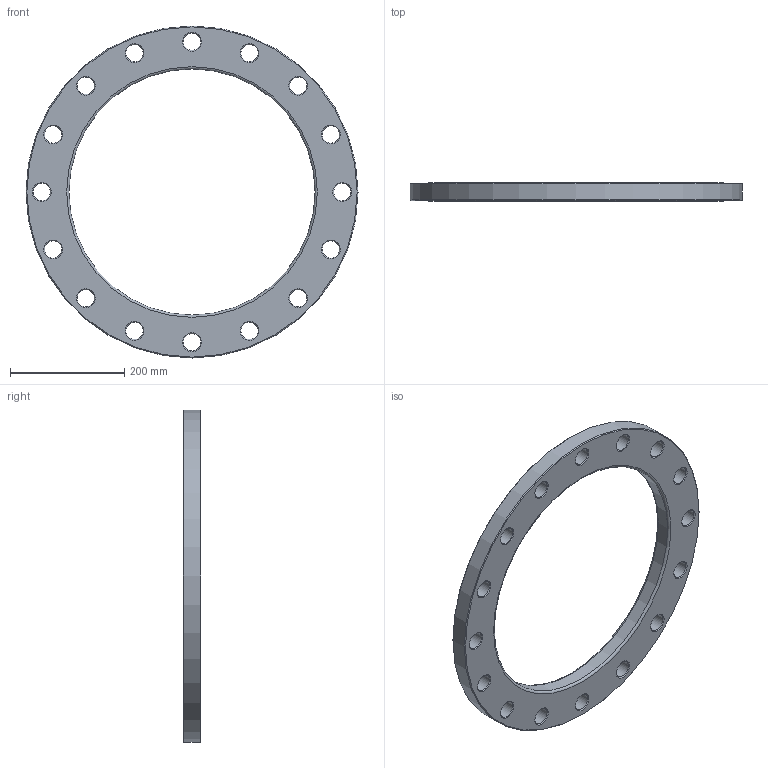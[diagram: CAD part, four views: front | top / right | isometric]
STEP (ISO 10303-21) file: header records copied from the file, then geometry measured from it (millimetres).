
FILE_DESCRIPTION(/* description */ ('Unknown'),/* implementation_level */ '2;1');
FILE_NAME(/* name */ 'FZ400C',/* time_stamp */ '2021-03-15T12:20:05+01:00',/* author */ ('Unknown'),/* organization */ ('Unknown'),/* preprocessor_version */ 'ST-DEVELOPER v16.7',/* originating_system */ 'Solid Edge',/* authorisation */ 'Unknown');
FILE_SCHEMA (('AUTOMOTIVE_DESIGN {1 0 10303 214 3 1 1}'));
Length unit declared in the file: millimetre
Products named in the file (1): FZ400C
Bounding box: 580 x 31 x 580 mm (x, y, z)
Volume: 3321106.6 mm3; surface area: 350077.8 mm2
Topology: 1 solids, 1 shells, 56 faces, 174 edges, 120 vertices
Faces by surface type: cone 34, cylinder 18, plane 2, torus 2
Full cylindrical faces by diameter (mm): 30 x16, 430 x1, 580 x1
Entity records: 1382 total; most frequent: DIRECTION 258, CARTESIAN_POINT 201, ORIENTED_EDGE 144, EDGE_LOOP 144, FACE_BOUND 144, AXIS2_PLACEMENT_3D 129, EDGE_CURVE 72, VERTEX_POINT 72
